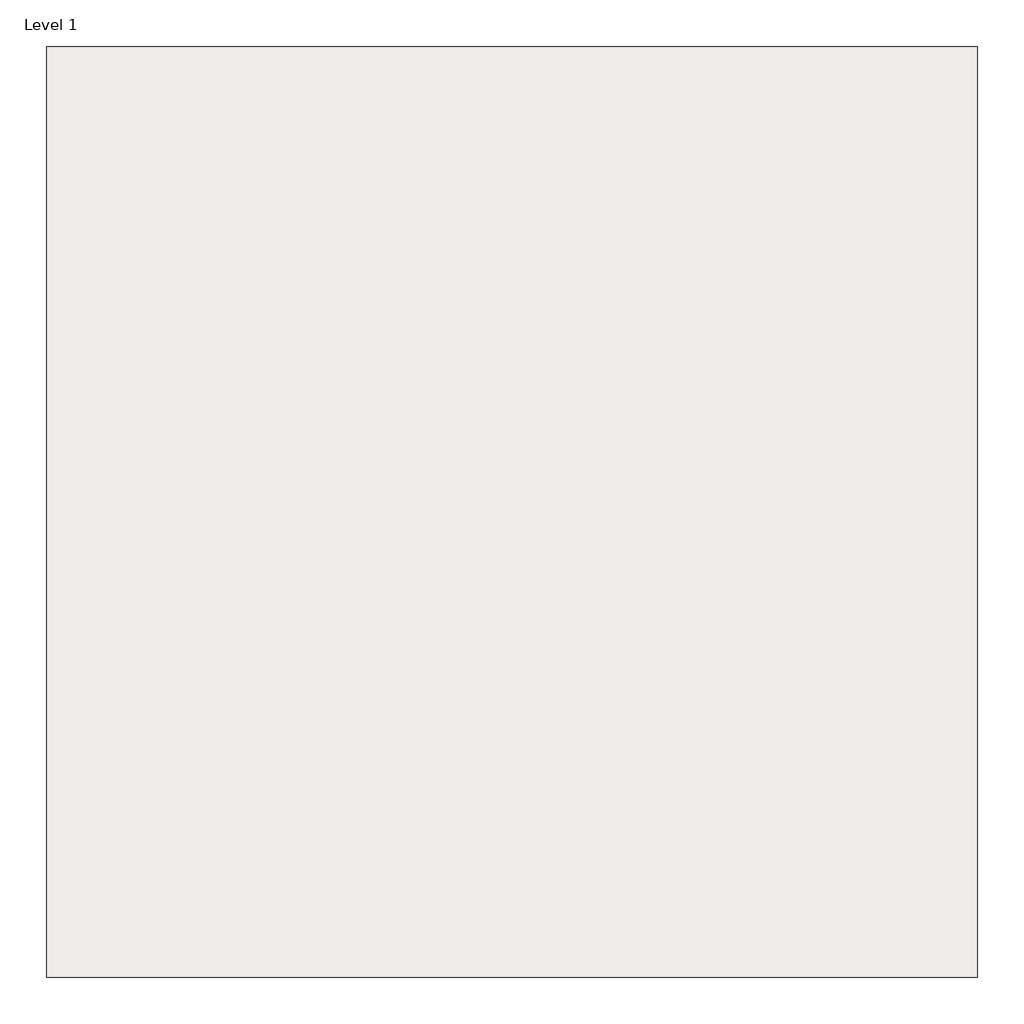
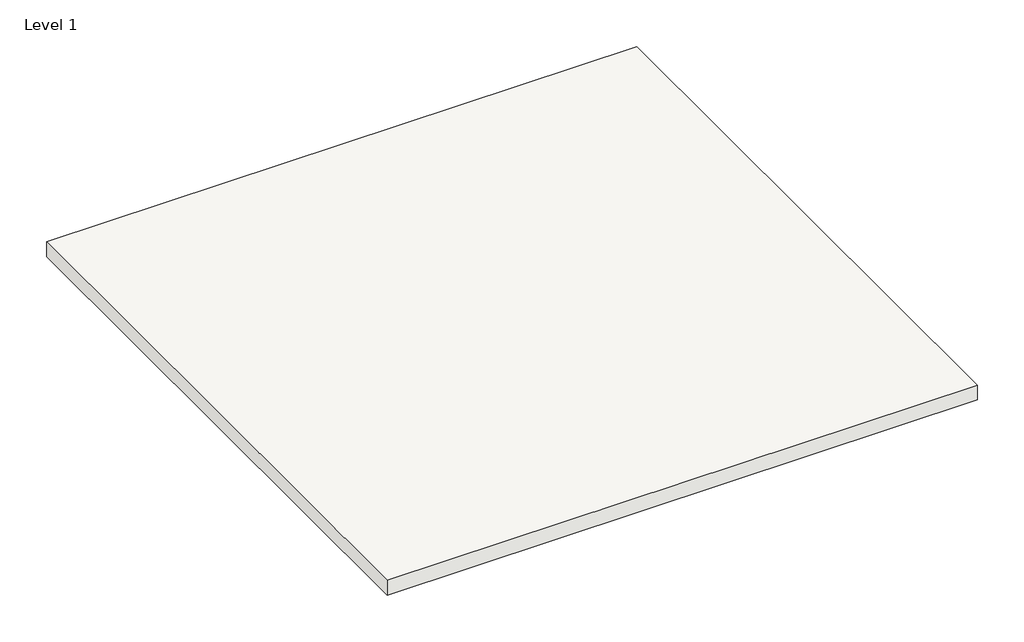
# One storey: 1 covering.
"""IFC4 building model written with IfcOpenShell, lengths in millimetres."""

from ifc_helpers import new_model, si_unit, origin, origin_with_axes, place, context, project, spatial, polyline, outline, extrude, element, save

model = new_model("IFC4")

# Units and contexts
model_context = context("Model", 3, world=origin())
ifc_project = project(units=[si_unit("LENGTHUNIT", "METRE", prefix="MILLI")], contexts=[model_context])

# Site, building, storey
site = spatial("IfcSite", under=ifc_project)
building = spatial("IfcBuilding", under=site)
storey = spatial("IfcBuildingStorey", under=building, Name="Level 1", Elevation=0.0)

# Covering
placement = place(None, origin())
element("IfcCovering", 1, ObjectType="RIGIPS - 4.10.30 - EI 120, REI 120 - 30dB", at=placement, inside=storey, context=model_context, shape_type="SweptSolid", body=[
    extrude(outline(polyline([(-1500.0, 1500.0), (1500.0, 1500.0), (1500.0, -1500.0), (-1500.0, -1500.0), (-1500.0, 1500.0)])), origin_with_axes(), (0.0, 0.0, 1.0), 80.0),
])

save(model, "model.ifc")
